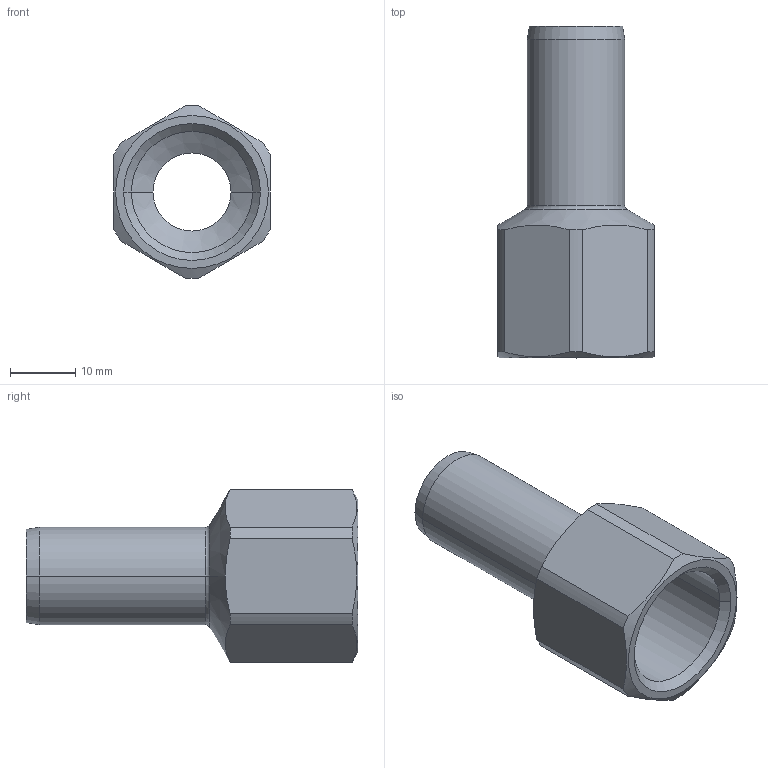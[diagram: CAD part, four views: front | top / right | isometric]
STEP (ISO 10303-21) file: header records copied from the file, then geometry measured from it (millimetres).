
FILE_DESCRIPTION(('OneSpaceDesigner STEP Export'),'2;1');
FILE_NAME('C1433 15xRp1-2.stp','2010-06-15T16:40:38',(''),(''),'OneSpace Designer STEP processor for AP214 (Solid Model)','OneSpace Modeling 15.00A 14-Mar-2007 (C) CoCreate Software GmbH','');
FILE_SCHEMA(('AUTOMOTIVE_DESIGN { 1 0 10303 214 1 1 1 1 }'));
Length unit declared in the file: millimetre
Products named in the file (2): C1433_15xRp1-2
Assembly tree (1 placements, depth 2):
  C1433_15xRp1-2
    C1433_15xRp1-2
Bounding box: 24 x 51 x 26.59 mm (x, y, z)
Volume: 6862.9 mm3; surface area: 5939.4 mm2
Topology: 1 solids, 1 shells, 32 faces, 78 edges, 48 vertices
Faces by surface type: cylinder 12, cone 10, plane 8, torus 2
Entity records: 1637 total; most frequent: CARTESIAN_POINT 960, ORIENTED_EDGE 156, DIRECTION 96, EDGE_CURVE 78, VERTEX_POINT 48, AXIS2_PLACEMENT_3D 34, EDGE_LOOP 34, FACE_OUTER_BOUND 32
